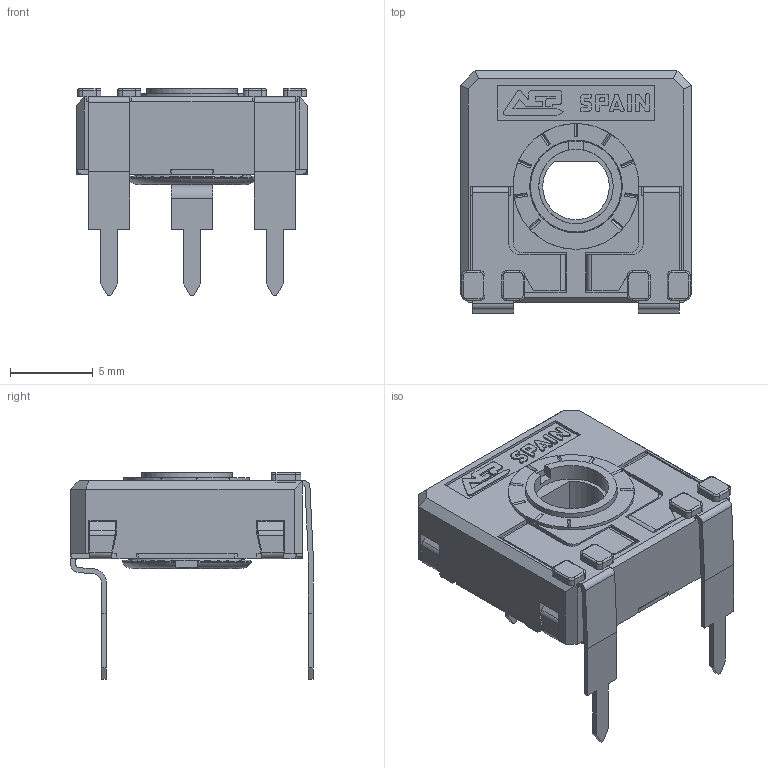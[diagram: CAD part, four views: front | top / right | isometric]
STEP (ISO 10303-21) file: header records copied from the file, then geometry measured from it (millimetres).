
FILE_DESCRIPTION(/* description */ (''),/* implementation_level */ '2;1');
FILE_NAME(/* name */ '\\SERVERACP\intercambio\Ignacio Santa Cecilia\Nueva WEB 2025\CA14 - CE14\CA14FVA12,5 RT-RO.stp',/* time_stamp */ '2025-06-12T09:33:44+02:00',/* author */ ('CEM'),/* organization */ (''),/* preprocessor_version */ 'ST-DEVELOPER v17',/* originating_system */ 'Autodesk Inventor 2018',/* authorisation */ '');
FILE_SCHEMA (('AUTOMOTIVE_DESIGN { 1 0 10303 214 3 1 1 }'));
Length unit declared in the file: millimetre
Products named in the file (1): CA14FV12,5 RT-RO
Bounding box: 14 x 14.65 x 12.5 mm (x, y, z)
Volume: 537.6 mm3; surface area: 1518.2 mm2
Topology: 1 solids, 1 shells, 680 faces, 1926 edges, 1242 vertices
Faces by surface type: plane 501, cylinder 142, torus 23, bspline 8, cone 6
Full cylindrical faces by diameter (mm): 4.5 x1, 5.5 x1, 5.6 x1, 5.752 x1, 6.8 x1, 7.6 x1
Entity records: 22266 total; most frequent: CARTESIAN_POINT 4146, ORIENTED_EDGE 3852, DIRECTION 3597, EDGE_CURVE 1926, LINE 1511, VECTOR 1511, VERTEX_POINT 1242, AXIS2_PLACEMENT_3D 1043
